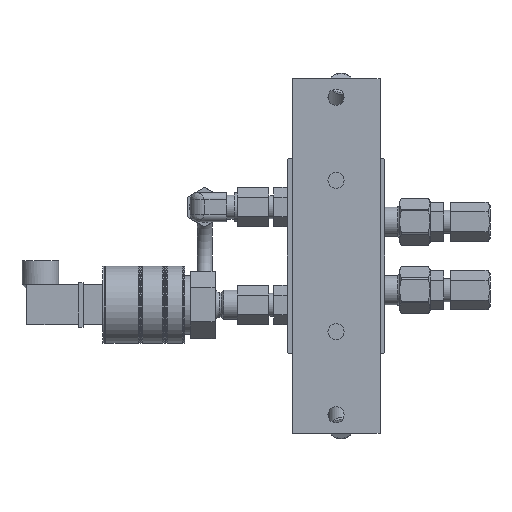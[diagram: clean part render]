
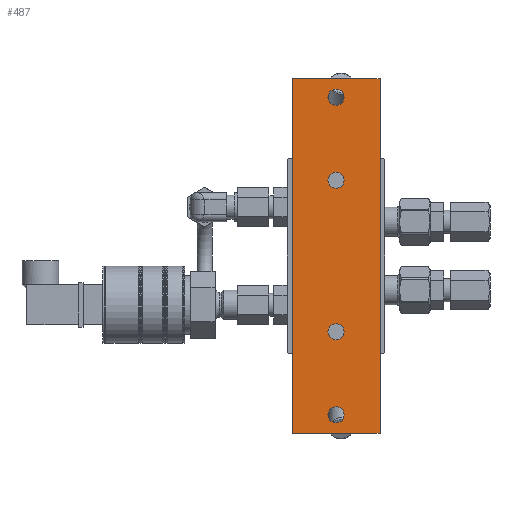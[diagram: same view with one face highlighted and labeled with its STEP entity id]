
A CAD part, front view. The second image highlights one B-rep face of the part: STEP entity #487.
In plain terms, the highlighted planar face has unit normal (0, -1, 0).
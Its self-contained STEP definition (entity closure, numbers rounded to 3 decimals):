
#487=ADVANCED_FACE('',(#1866,#1868,#1870,#1872,#1874),#1876,.T.);
#1866=FACE_BOUND('',#1867,.T.);
#1867=EDGE_LOOP('',(#8104));
#1868=FACE_BOUND('',#1869,.T.);
#1869=EDGE_LOOP('',(#8105));
#1870=FACE_BOUND('',#1871,.T.);
#1871=EDGE_LOOP('',(#8106));
#1872=FACE_BOUND('',#1873,.T.);
#1873=EDGE_LOOP('',(#8107));
#1874=FACE_OUTER_BOUND('',#1875,.T.);
#1875=EDGE_LOOP('',(#8108,#8109,#8110,#8111));
#1876=PLANE('',#1877);
#1877=AXIS2_PLACEMENT_3D('',#1878,#1879,#1880);
#1878=CARTESIAN_POINT('',(-2.,-2.,0.));
#1879=DIRECTION('',(0.,-1.,0.));
#1880=DIRECTION('',(1.,0.,0.));
#8104=ORIENTED_EDGE('',*,*,#11275,.T.);
#8105=ORIENTED_EDGE('',*,*,#11276,.T.);
#8106=ORIENTED_EDGE('',*,*,#11277,.T.);
#8107=ORIENTED_EDGE('',*,*,#11278,.T.);
#8108=ORIENTED_EDGE('',*,*,#11279,.T.);
#8109=ORIENTED_EDGE('',*,*,#11280,.T.);
#8110=ORIENTED_EDGE('',*,*,#11281,.T.);
#8111=ORIENTED_EDGE('',*,*,#11282,.T.);
#11275=EDGE_CURVE('',#13110,#13110,#13111,.F.);
#11276=EDGE_CURVE('',#13112,#13112,#13113,.F.);
#11277=EDGE_CURVE('',#13114,#13114,#13115,.T.);
#11278=EDGE_CURVE('',#13116,#13116,#13117,.T.);
#11279=EDGE_CURVE('',#13118,#13119,#13120,.T.);
#11280=EDGE_CURVE('',#13119,#13121,#13122,.T.);
#11281=EDGE_CURVE('',#13121,#13123,#13124,.T.);
#11282=EDGE_CURVE('',#13123,#13118,#13125,.T.);
#13110=VERTEX_POINT('',#18196);
#13111=CIRCLE('',#18197,3.3);
#13112=VERTEX_POINT('',#18201);
#13113=CIRCLE('',#18202,3.3);
#13114=VERTEX_POINT('',#18206);
#13115=CIRCLE('',#18207,3.3);
#13116=VERTEX_POINT('',#18211);
#13117=CIRCLE('',#18212,3.3);
#13118=VERTEX_POINT('',#18216);
#13119=VERTEX_POINT('',#18217);
#13120=LINE('',#18218,#18219);
#13121=VERTEX_POINT('',#18221);
#13122=LINE('',#18222,#18223);
#13123=VERTEX_POINT('',#18225);
#13124=LINE('',#18226,#18227);
#13125=LINE('',#18229,#18230);
#18196=CARTESIAN_POINT('',(1.3,-2.,65.));
#18197=AXIS2_PLACEMENT_3D('',#18198,#18199,#18200);
#18198=CARTESIAN_POINT('',(-2.,-2.,65.));
#18199=DIRECTION('',(0.,-1.,0.));
#18200=DIRECTION('',(1.,0.,0.));
#18201=CARTESIAN_POINT('',(1.3,-2.,-65.));
#18202=AXIS2_PLACEMENT_3D('',#18203,#18204,#18205);
#18203=CARTESIAN_POINT('',(-2.,-2.,-65.));
#18204=DIRECTION('',(0.,-1.,0.));
#18205=DIRECTION('',(1.,0.,0.));
#18206=CARTESIAN_POINT('',(-5.3,-2.,-31.));
#18207=AXIS2_PLACEMENT_3D('',#18208,#18209,#18210);
#18208=CARTESIAN_POINT('',(-2.,-2.,-31.));
#18209=DIRECTION('',(0.,1.,0.));
#18210=DIRECTION('',(-1.,0.,0.));
#18211=CARTESIAN_POINT('',(-5.3,-2.,31.));
#18212=AXIS2_PLACEMENT_3D('',#18213,#18214,#18215);
#18213=CARTESIAN_POINT('',(-2.,-2.,31.));
#18214=DIRECTION('',(0.,1.,0.));
#18215=DIRECTION('',(-1.,0.,0.));
#18216=CARTESIAN_POINT('',(-20.,-2.,-72.5));
#18217=CARTESIAN_POINT('',(16.,-2.,-72.5));
#18218=CARTESIAN_POINT('',(-20.,-2.,-72.5));
#18219=VECTOR('',#18220,1.);
#18220=DIRECTION('',(1.,0.,0.));
#18221=CARTESIAN_POINT('',(16.,-2.,72.5));
#18222=CARTESIAN_POINT('',(16.,-2.,-72.5));
#18223=VECTOR('',#18224,1.);
#18224=DIRECTION('',(0.,0.,1.));
#18225=CARTESIAN_POINT('',(-20.,-2.,72.5));
#18226=CARTESIAN_POINT('',(16.,-2.,72.5));
#18227=VECTOR('',#18228,1.);
#18228=DIRECTION('',(-1.,0.,0.));
#18229=CARTESIAN_POINT('',(-20.,-2.,72.5));
#18230=VECTOR('',#18231,1.);
#18231=DIRECTION('',(0.,0.,-1.));
